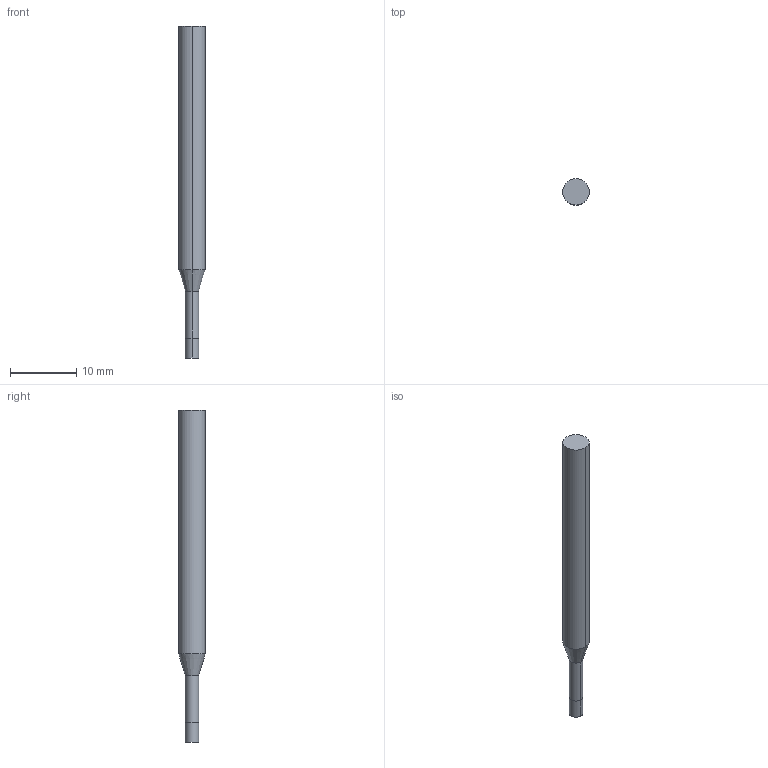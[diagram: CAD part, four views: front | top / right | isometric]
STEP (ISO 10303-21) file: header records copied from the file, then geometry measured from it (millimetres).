
FILE_DESCRIPTION((' '),'2;1');
FILE_NAME( '3MVSM0200N5AH.stp', '2026-01-21T19:27:41', (' '), ('--- Datakit www.datakit.com---'), ' Datakit CrossCadWare V2025.4 Sep 19 2025', 'Mastercam 2027', ' ');
FILE_SCHEMA(('AUTOMOTIVE_DESIGN { 1 0 10303 214 1 1 1 1 }'));
Length unit declared in the file: inch
Products named in the file (1): 3MVSM0200N5AH
Bounding box: 4 x 4 x 50 mm (x, y, z)
Volume: 517 mm3; surface area: 572.3 mm2
Topology: 1 solids, 1 shells, 10 faces, 18 edges, 10 vertices
Faces by surface type: cylinder 6, plane 2, cone 2
Entity records: 323 total; most frequent: DIRECTION 58, CARTESIAN_POINT 43, ORIENTED_EDGE 36, AXIS2_PLACEMENT_3D 25, EDGE_CURVE 18, VERTEX_POINT 10, CIRCLE 10, EDGE_LOOP 10
